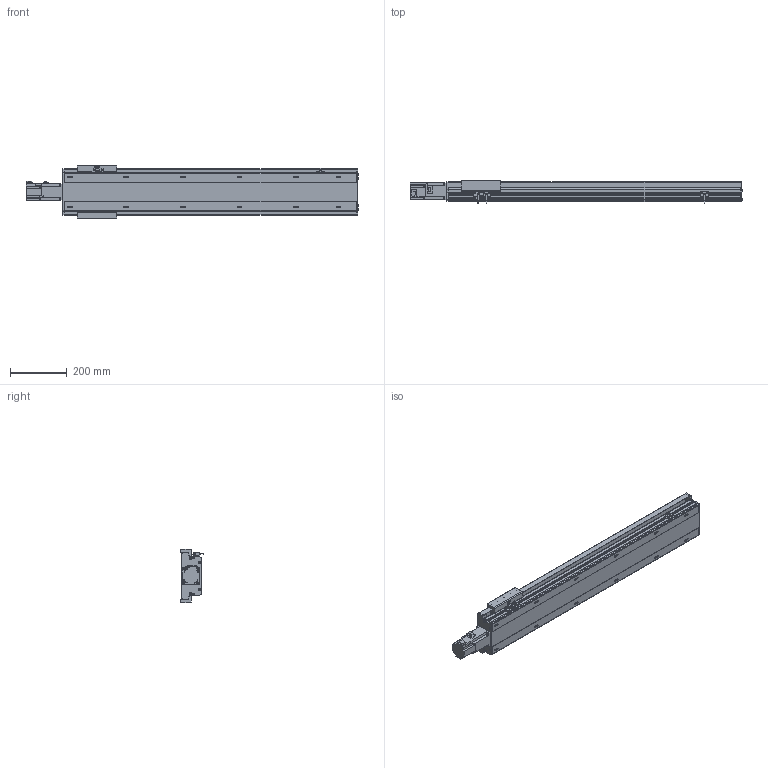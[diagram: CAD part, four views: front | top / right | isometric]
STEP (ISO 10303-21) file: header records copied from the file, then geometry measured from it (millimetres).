
FILE_DESCRIPTION(/* description */ ('STEP AP214'),/* implementation_level */ '2;1');
FILE_NAME(/* name */ 'PSM140-L10-S800-BC-T40-C1-N(0)',/* time_stamp */ '2022-06-13T03:19:42+02:00',/* author */ ('License CC BY-ND 4.0'),/* organization */ ('CADENAS'),/* preprocessor_version */ 'ST-DEVELOPER v18.102',/* originating_system */ 'PARTsolutions',/* authorisation */ ' ');
FILE_SCHEMA (('AUTOMOTIVE_DESIGN {1 0 10303 214 3 1 1}'));
Length unit declared in the file: millimetre
Products named in the file (7): PSM140-L10-S800-BC-T40-C1-N(0); PSM-Sensor; PSM140-S800-1042.5; T40-p1; PSM140_body3; PSM140-S800_body1; PSM140-L10-S800-BC-T40-C1-N(0)_dummy
Assembly tree (10 placements, depth 2):
  PSM140-L10-S800-BC-T40-C1-N(0)
    PSM-Sensor  x3
    PSM140-S800-1042.5  x3
    T40-p1
    PSM140_body3
    PSM140-S800_body1
    PSM140-L10-S800-BC-T40-C1-N(0)_dummy
Bounding box: 1173.7 x 81.3 x 190 mm (x, y, z)
Volume: 5000503.5 mm3; surface area: 1065971.8 mm2
Topology: 9 solids, 9 shells, 960 faces, 2541 edges, 1652 vertices
Faces by surface type: plane 628, cylinder 258, cone 60, torus 14
Full cylindrical faces by diameter (mm): 2.8 x3, 4.5 x12, 4.6 x3, 4.917 x20, 5.5 x7, 5.7 x6, 6 x2, 7 x20, 8 x8, 8.5 x4, 10.5 x12, 14 x1, 50 x1
Entity records: 24517 total; most frequent: CARTESIAN_POINT 4410, DIRECTION 4133, ORIENTED_EDGE 3890, EDGE_CURVE 1945, AXIS2_PLACEMENT_3D 1383, LINE 1367, VECTOR 1367, VERTEX_POINT 1366
